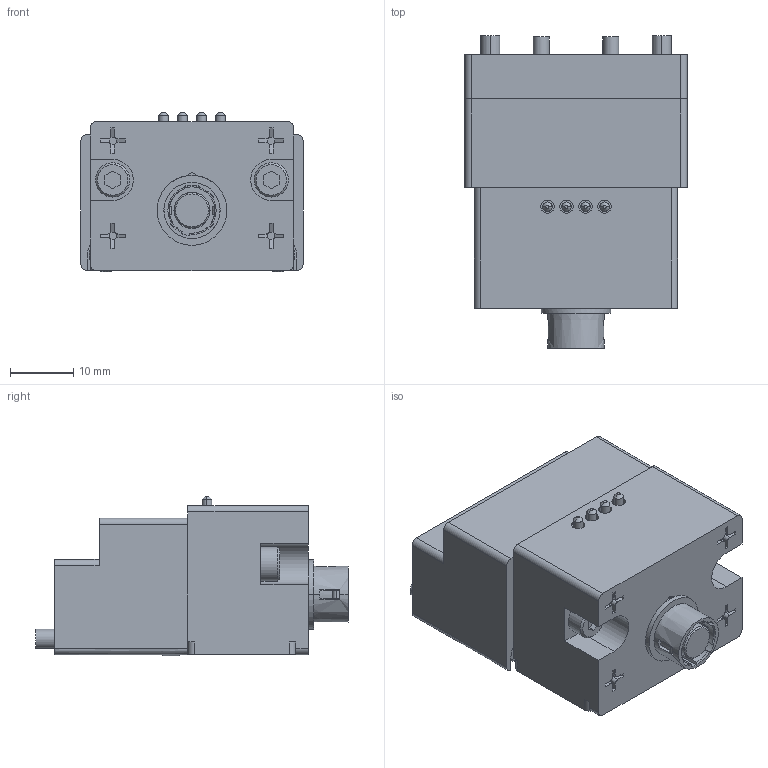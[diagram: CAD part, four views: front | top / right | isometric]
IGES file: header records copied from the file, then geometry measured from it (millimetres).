
Start section: 3D InterOp IGES (v. 2022 1.0.0), Spatial Corp. Copyright (c) 1999-2020.
Global section: file name: KHG-12HS-D14C_ver1.igs; native system: Spatial Corp.; preprocessor: 3D InterOp GENERIC/IGES 3.0; author: Noname; organization: Noname; date: 20260518.093333; units: millimetre
Bounding box: 35 x 49.3 x 25.2 mm (x, y, z)
Surface area: 8967.7 mm2 (no closed solid volume)
Topology: 0 solids, 0 shells, 604 faces, 3036 edges, 3035 vertices
Faces by surface type: extrusion 364, revolution 240
